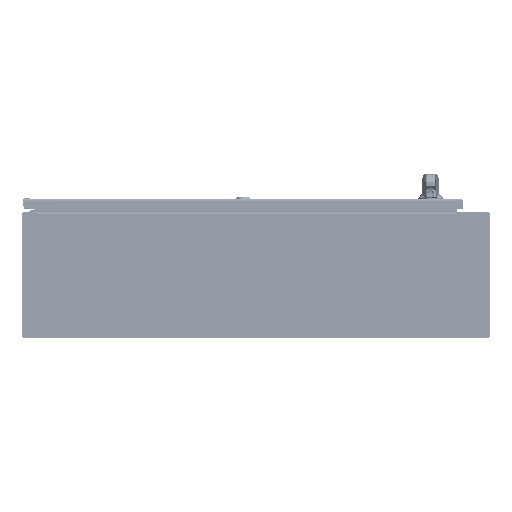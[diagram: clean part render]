
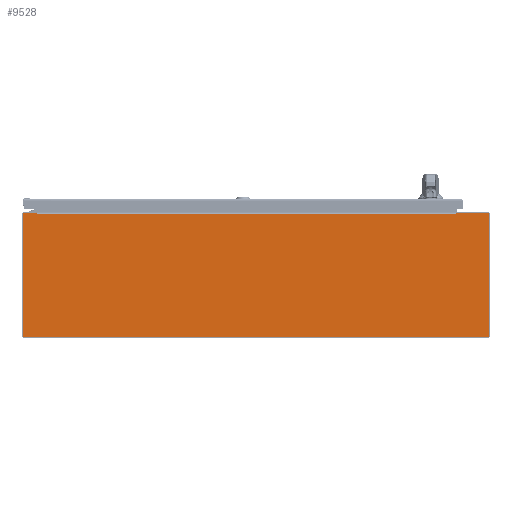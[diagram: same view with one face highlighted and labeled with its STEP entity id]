
A CAD part, front view. The second image highlights one B-rep face of the part: STEP entity #9528.
In plain terms, the highlighted planar face has unit normal (0, -1, 0).
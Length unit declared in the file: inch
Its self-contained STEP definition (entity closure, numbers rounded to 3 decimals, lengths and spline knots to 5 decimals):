
#8311=CARTESIAN_POINT('',(-18.5445,0.,4.857));
#8312=DIRECTION('',(0.,-1.,0.));
#8313=DIRECTION('',(0.,0.,1.));
#8314=AXIS2_PLACEMENT_3D('',#8311,#8312,#8313);
#8319=DIRECTION('',(-1.,0.,0.));
#8320=VECTOR('',#8319,1.02894);
#8321=CARTESIAN_POINT('',(-17.51556,0.,4.937));
#8322=LINE('',#8321,#8320);
#8326=DIRECTION('',(0.174,0.,-0.985));
#8327=VECTOR('',#8326,0.08326);
#8328=CARTESIAN_POINT('',(-17.51556,0.,4.937));
#8329=LINE('',#8328,#8327);
#8333=DIRECTION('',(-1.,0.,0.));
#8334=VECTOR('',#8333,0.0156);
#8335=CARTESIAN_POINT('',(-17.4855,0.,4.855));
#8336=LINE('',#8335,#8334);
#8340=DIRECTION('',(1.,0.,0.));
#8341=VECTOR('',#8340,0.0156);
#8342=CARTESIAN_POINT('',(15.9855,0.,4.855));
#8343=LINE('',#8342,#8341);
#8347=DIRECTION('',(-0.174,0.,-0.985));
#8348=VECTOR('',#8347,0.08326);
#8349=CARTESIAN_POINT('',(16.01556,0.,4.937));
#8350=LINE('',#8349,#8348);
#8354=DIRECTION('',(-1.,0.,0.));
#8355=VECTOR('',#8354,2.52894);
#8356=CARTESIAN_POINT('',(18.5445,0.,4.937));
#8357=LINE('',#8356,#8355);
#8361=CARTESIAN_POINT('',(18.5445,0.,4.857));
#8362=DIRECTION('',(0.,-1.,0.));
#8363=DIRECTION('',(1.,0.,0.));
#8364=AXIS2_PLACEMENT_3D('',#8361,#8362,#8363);
#8369=DIRECTION('',(0.,0.,1.));
#8370=VECTOR('',#8369,9.714);
#8371=CARTESIAN_POINT('',(18.6245,0.,-4.857));
#8372=LINE('',#8371,#8370);
#8376=CARTESIAN_POINT('',(18.5445,0.,-4.857));
#8377=DIRECTION('',(0.,-1.,0.));
#8378=DIRECTION('',(0.,0.,-1.));
#8379=AXIS2_PLACEMENT_3D('',#8376,#8377,#8378);
#8384=DIRECTION('',(1.,0.,0.));
#8385=VECTOR('',#8384,37.089);
#8386=CARTESIAN_POINT('',(-18.5445,0.,-4.937));
#8387=LINE('',#8386,#8385);
#8391=CARTESIAN_POINT('',(-18.5445,0.,-4.857));
#8392=DIRECTION('',(0.,-1.,0.));
#8393=DIRECTION('',(-1.,0.,0.));
#8394=AXIS2_PLACEMENT_3D('',#8391,#8392,#8393);
#8399=DIRECTION('',(0.,0.,-1.));
#8400=VECTOR('',#8399,9.714);
#8401=CARTESIAN_POINT('',(-18.6245,0.,4.857));
#8402=LINE('',#8401,#8400);
#8680=DIRECTION('',(1.,0.,0.));
#8681=VECTOR('',#8680,33.471);
#8682=CARTESIAN_POINT('',(-17.4855,0.,4.855));
#8683=LINE('',#8682,#8681);
#9341=CARTESIAN_POINT('',(15.9855,0.,4.855));
#9342=CARTESIAN_POINT('',(16.0011,0.,4.855));
#9343=VERTEX_POINT('',#9341);
#9344=VERTEX_POINT('',#9342);
#9345=CARTESIAN_POINT('',(16.01556,0.,4.937));
#9346=VERTEX_POINT('',#9345);
#9353=CARTESIAN_POINT('',(-17.4855,0.,4.855));
#9354=CARTESIAN_POINT('',(-17.5011,0.,4.855));
#9355=VERTEX_POINT('',#9353);
#9356=VERTEX_POINT('',#9354);
#9357=CARTESIAN_POINT('',(-17.51556,0.,4.937));
#9358=VERTEX_POINT('',#9357);
#9421=CARTESIAN_POINT('',(-18.5445,0.,4.937));
#9422=CARTESIAN_POINT('',(-18.6245,0.,4.857));
#9423=VERTEX_POINT('',#9421);
#9424=VERTEX_POINT('',#9422);
#9429=CARTESIAN_POINT('',(-18.6245,0.,-4.857));
#9430=CARTESIAN_POINT('',(-18.5445,0.,-4.937));
#9431=VERTEX_POINT('',#9429);
#9432=VERTEX_POINT('',#9430);
#9437=CARTESIAN_POINT('',(18.5445,0.,-4.937));
#9438=CARTESIAN_POINT('',(18.6245,0.,-4.857));
#9439=VERTEX_POINT('',#9437);
#9440=VERTEX_POINT('',#9438);
#9445=CARTESIAN_POINT('',(18.6245,0.,4.857));
#9446=CARTESIAN_POINT('',(18.5445,0.,4.937));
#9447=VERTEX_POINT('',#9445);
#9448=VERTEX_POINT('',#9446);
#9493=CARTESIAN_POINT('',(0.,0.,0.));
#9494=DIRECTION('',(0.,-1.,0.));
#9495=DIRECTION('',(-1.,0.,0.));
#9496=AXIS2_PLACEMENT_3D('',#9493,#9494,#9495);
#9497=PLANE('',#9496);
#9499=ORIENTED_EDGE('',*,*,#9498,.F.);
#9501=ORIENTED_EDGE('',*,*,#9500,.F.);
#9503=ORIENTED_EDGE('',*,*,#9502,.T.);
#9505=ORIENTED_EDGE('',*,*,#9504,.F.);
#9507=ORIENTED_EDGE('',*,*,#9506,.T.);
#9509=ORIENTED_EDGE('',*,*,#9508,.T.);
#9511=ORIENTED_EDGE('',*,*,#9510,.F.);
#9513=ORIENTED_EDGE('',*,*,#9512,.F.);
#9515=ORIENTED_EDGE('',*,*,#9514,.F.);
#9517=ORIENTED_EDGE('',*,*,#9516,.F.);
#9519=ORIENTED_EDGE('',*,*,#9518,.F.);
#9521=ORIENTED_EDGE('',*,*,#9520,.F.);
#9523=ORIENTED_EDGE('',*,*,#9522,.F.);
#9525=ORIENTED_EDGE('',*,*,#9524,.F.);
#9526=EDGE_LOOP('',(#9499,#9501,#9503,#9505,#9507,#9509,#9511,#9513,#9515,#9517,
#9519,#9521,#9523,#9525));
#9527=FACE_OUTER_BOUND('',#9526,.F.);
#8315=CIRCLE('',#8314,0.08);
#8365=CIRCLE('',#8364,0.08);
#8380=CIRCLE('',#8379,0.08);
#8395=CIRCLE('',#8394,0.08);
#9498=EDGE_CURVE('',#9423,#9424,#8315,.T.);
#9500=EDGE_CURVE('',#9358,#9423,#8322,.T.);
#9502=EDGE_CURVE('',#9358,#9356,#8329,.T.);
#9504=EDGE_CURVE('',#9355,#9356,#8336,.T.);
#9506=EDGE_CURVE('',#9355,#9343,#8683,.T.);
#9508=EDGE_CURVE('',#9343,#9344,#8343,.T.);
#9510=EDGE_CURVE('',#9346,#9344,#8350,.T.);
#9512=EDGE_CURVE('',#9448,#9346,#8357,.T.);
#9514=EDGE_CURVE('',#9447,#9448,#8365,.T.);
#9516=EDGE_CURVE('',#9440,#9447,#8372,.T.);
#9518=EDGE_CURVE('',#9439,#9440,#8380,.T.);
#9520=EDGE_CURVE('',#9432,#9439,#8387,.T.);
#9522=EDGE_CURVE('',#9431,#9432,#8395,.T.);
#9524=EDGE_CURVE('',#9424,#9431,#8402,.T.);
#9528=ADVANCED_FACE('',(#9527),#9497,.T.);
